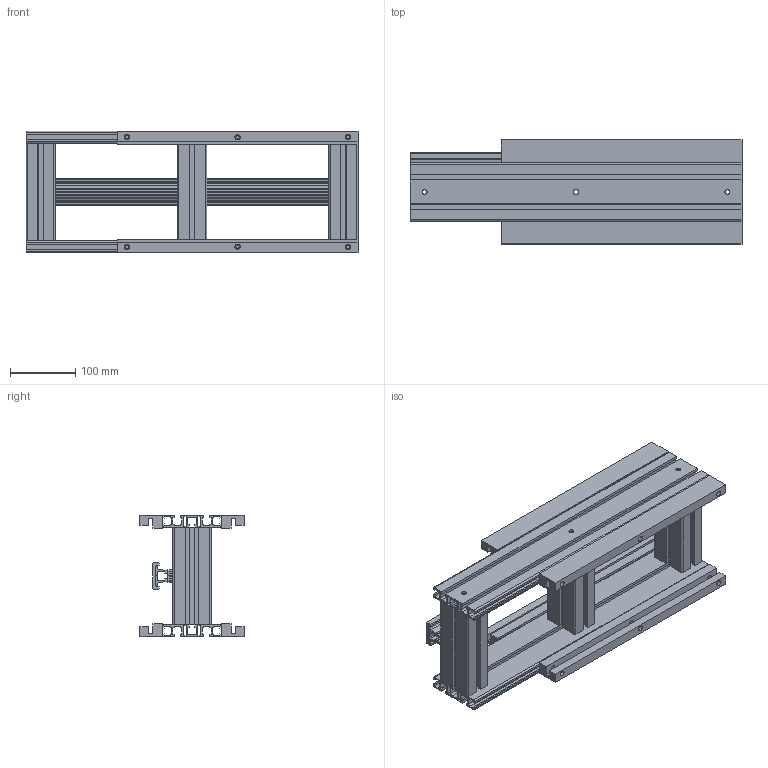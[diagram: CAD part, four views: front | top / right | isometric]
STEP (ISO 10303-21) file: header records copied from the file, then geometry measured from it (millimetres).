
FILE_DESCRIPTION (( 'STEP AP203' ), '1' );
FILE_NAME ('3000.152.102.STEP', '2018-03-09T16:27:46', ( '' ), ( '' ), 'SwSTEP 2.0', 'SolidWorks 2016', '' );
FILE_SCHEMA (( 'CONFIG_CONTROL_DESIGN' ));
Length unit declared in the file: millimetre
Products named in the file (1): 3000.152.102
Bounding box: 510 x 160 x 187 mm (x, y, z)
Volume: 2333185.3 mm3; surface area: 1387492.7 mm2
Topology: 15 solids, 15 shells, 839 faces, 2400 edges, 1600 vertices
Faces by surface type: plane 515, cylinder 320, cone 4
Entity records: 27761 total; most frequent: CARTESIAN_POINT 4876, ORIENTED_EDGE 4800, DIRECTION 4722, EDGE_CURVE 2400, LINE 1734, VECTOR 1734, VERTEX_POINT 1600, AXIS2_PLACEMENT_3D 1494
